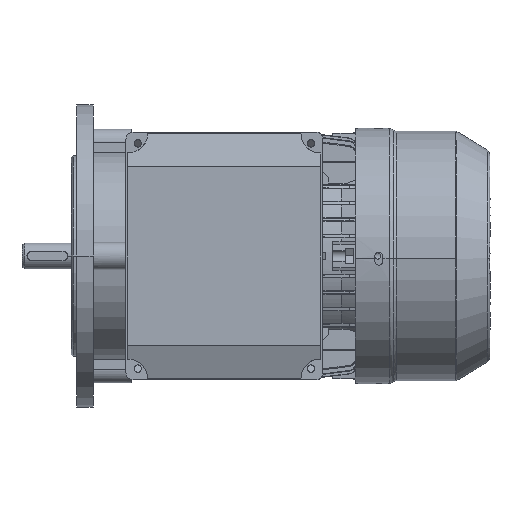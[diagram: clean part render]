
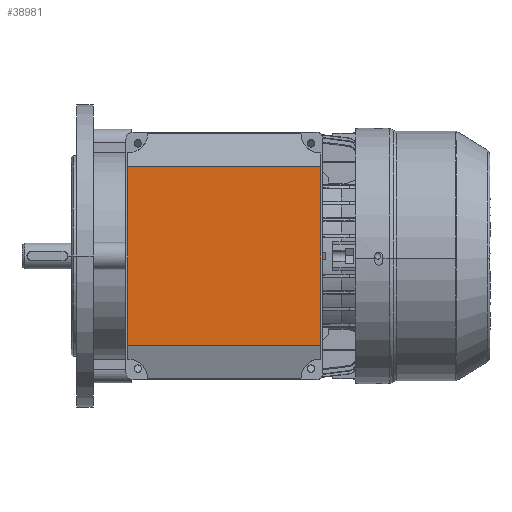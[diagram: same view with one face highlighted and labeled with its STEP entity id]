
A CAD part, left-side view. The second image highlights one B-rep face of the part: STEP entity #38981.
In plain terms, the highlighted planar face has unit normal (-1, 0, 0) as drawn and (0, 1, 0) by its records, which use the part's own axes.
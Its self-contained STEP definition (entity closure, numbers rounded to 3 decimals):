
#7943 = PLANE ( 'NONE',  #8353 ) ;
#7944 = CARTESIAN_POINT ( 'NONE',  ( 1., 19.5, -135.512 ) ) ;
#7945 = DIRECTION ( 'NONE',  ( 0., 1., 0. ) ) ;
#7946 = DIRECTION ( 'NONE',  ( 0., 0., 1. ) ) ;
#8349 = FACE_OUTER_BOUND ( 'NONE', #27382, .T. ) ;
#8353 = AXIS2_PLACEMENT_3D ( 'NONE', #7944, #7945, #7946 ) ;
#8527 = VECTOR ( 'NONE', #9110, 1000. ) ;
#8536 = VECTOR ( 'NONE', #9142, 1000. ) ;
#8542 = VECTOR ( 'NONE', #9159, 1000. ) ;
#8544 = VECTOR ( 'NONE', #9162, 1000. ) ;
#9108 = LINE ( 'NONE', #9109, #8527 ) ;
#9109 = CARTESIAN_POINT ( 'NONE',  ( 1., 19.5, -11.5 ) ) ;
#9110 = DIRECTION ( 'NONE',  ( 0., 0., 1. ) ) ;
#9140 = LINE ( 'NONE', #9141, #8536 ) ;
#9141 = CARTESIAN_POINT ( 'NONE',  ( 107., 19.5, -124.5 ) ) ;
#9142 = DIRECTION ( 'NONE',  ( 0., 0., -1. ) ) ;
#9157 = LINE ( 'NONE', #9158, #8542 ) ;
#9158 = CARTESIAN_POINT ( 'NONE',  ( 12., 19.5, -117. ) ) ;
#9159 = DIRECTION ( 'NONE',  ( -1., 0., 0. ) ) ;
#9160 = LINE ( 'NONE', #9161, #8544 ) ;
#9161 = CARTESIAN_POINT ( 'NONE',  ( 96., 19.5, -19. ) ) ;
#9162 = DIRECTION ( 'NONE',  ( 1., 0., 0. ) ) ;
#20566 = VERTEX_POINT ( 'NONE', #46607 ) ;
#20589 = VERTEX_POINT ( 'NONE', #46630 ) ;
#20595 = VERTEX_POINT ( 'NONE', #46636 ) ;
#20612 = VERTEX_POINT ( 'NONE', #46653 ) ;
#27382 = EDGE_LOOP ( 'NONE', ( #40155, #40156, #40153, #40157 ) ) ;
#38981 = ADVANCED_FACE ( 'NONE', ( #8349 ), #7943, .T. ) ;
#39119 = EDGE_CURVE ( 'NONE', #20566, #20589, #9108, .T. ) ;
#39129 = EDGE_CURVE ( 'NONE', #20595, #20612, #9140, .T. ) ;
#39134 = EDGE_CURVE ( 'NONE', #20612, #20566, #9157, .T. ) ;
#39135 = EDGE_CURVE ( 'NONE', #20589, #20595, #9160, .T. ) ;
#40153 = ORIENTED_EDGE ( 'NONE', *, *, #39119, .T. ) ;
#40155 = ORIENTED_EDGE ( 'NONE', *, *, #39129, .T. ) ;
#40156 = ORIENTED_EDGE ( 'NONE', *, *, #39134, .T. ) ;
#40157 = ORIENTED_EDGE ( 'NONE', *, *, #39135, .T. ) ;
#46607 = CARTESIAN_POINT ( 'NONE',  ( 1., 19.5, -117. ) ) ;
#46630 = CARTESIAN_POINT ( 'NONE',  ( 1., 19.5, -19. ) ) ;
#46636 = CARTESIAN_POINT ( 'NONE',  ( 107., 19.5, -19. ) ) ;
#46653 = CARTESIAN_POINT ( 'NONE',  ( 107., 19.5, -117. ) ) ;
